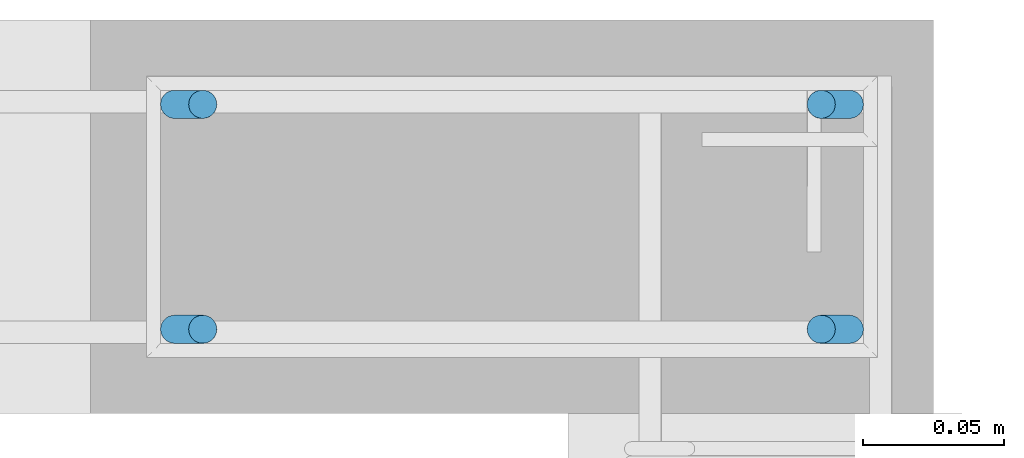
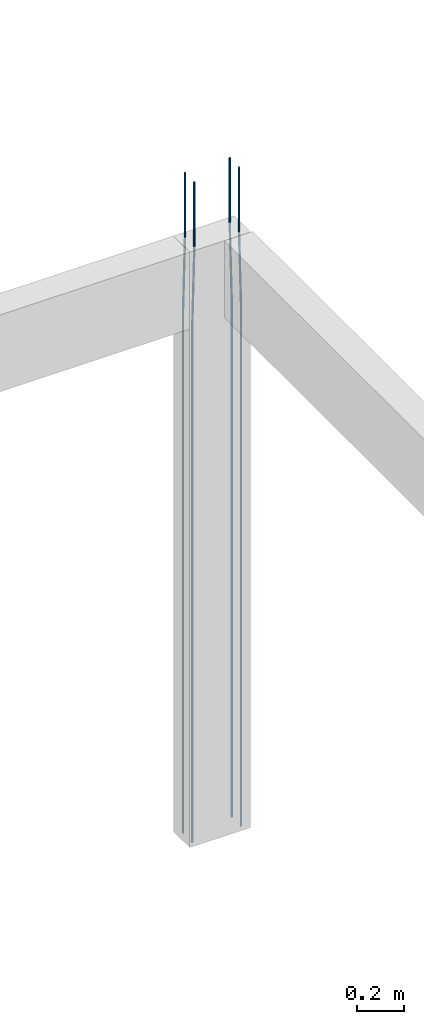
# One storey, part 131 of 236: 4 reinforcing bars.
"""IFC4 building model written with IfcOpenShell, lengths in centimetres."""

from ifc_helpers import new_model, entity, si_unit, derived_unit, frame, origin_with_axes, place, context, project, spatial, element, save


model = new_model("IFC4")

# Units and contexts
model_context = context("Model", 3, precision=1e-05, world=origin_with_axes(), identifier="Body")
ifc_project = project(units=[si_unit("LENGTHUNIT", "METRE", prefix="CENTI"), si_unit("VOLUMEUNIT", "CUBIC_METRE"), si_unit("AREAUNIT", "SQUARE_METRE"), si_unit("POWERUNIT", "WATT"), si_unit("LUMINOUSFLUXUNIT", "LUMEN"), si_unit("ELECTRICCURRENTUNIT", "AMPERE"), si_unit("PRESSUREUNIT", "PASCAL", prefix="KILO"), si_unit("MASSUNIT", "GRAM", prefix="KILO"), si_unit("PLANEANGLEUNIT", "RADIAN"), derived_unit("VOLUMETRICFLOWRATEUNIT", [(si_unit("LENGTHUNIT", "METRE"), 3), (si_unit("TIMEUNIT", "SECOND"), -1)])], contexts=[model_context])

# Site, building, storey
site_placement = place(None, frame((-4000.0, 0.0, 0.0), z_axis=(0.0, 0.0, 1.0), x_axis=(1.0, 0.0, 0.0)))
site = spatial("IfcSite", under=ifc_project, at=site_placement, Name="PADRÃO")
building_placement = place(site_placement, frame((0.0, 0.0, -14.0)))
building = spatial("IfcBuilding", under=site, at=building_placement, Name="CRECHE PRÉ-ESCOLA TIPO 2")
placement_1 = place(building_placement, origin_with_axes())
placement_2 = place(placement_1, frame((0.0, 0.0, 30.0), z_axis=(0.0, 0.0, 1.0), x_axis=(1.0, 0.0, 0.0)))
storey_placement = place(placement_2, frame((0.0, 0.0, 310.0), z_axis=(0.0, 0.0, 1.0), x_axis=(1.0, 0.0, 0.0)))
storey = spatial("IfcBuildingStorey", under=building, at=storey_placement, Name="TERREO", CompositionType="ELEMENT", Elevation=326.0)

# Reinforcing bars
reinforcing_bar_1_placement = place(storey_placement, frame((1388.34, 3989.0, 33.3573001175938), z_axis=(0.0, 0.0, 1.0), x_axis=(1.0, 0.0, 0.0)))
element("IfcReinforcingBar", 1, at=reinforcing_bar_1_placement, inside=storey, Name="P25 - Longitudinal", BarLength=0.0, CrossSectionArea=7.853981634e-05, NominalDiameter=1.0, PredefinedType="MAIN", context=model_context, shape_type="AdvancedSweptSolid", body=[
    entity("IfcSweptDiskSolid", entity("IfcCompositeCurve", [entity("IfcCompositeCurveSegment", "CONTINUOUS", True, entity("IfcPolyline", [entity("IfcCartesianPoint", [0.5, 0.0, -343.357300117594]), entity("IfcCartesianPoint", [0.5, 0.0, -73.3573001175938])])), entity("IfcCompositeCurveSegment", "CONTINUOUS", True, entity("IfcPolyline", [entity("IfcCartesianPoint", [0.5, 0.0, -73.3573001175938]), entity("IfcCartesianPoint", [-0.5, 0.0, -33.3573001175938])])), entity("IfcCompositeCurveSegment", "CONTINUOUS", True, entity("IfcPolyline", [entity("IfcCartesianPoint", [-0.5, 0.0, -33.3573001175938]), entity("IfcCartesianPoint", [-0.5, 0.0, 0.0])]))], False), 0.5),
])
reinforcing_bar_2_placement = place(storey_placement, frame((1365.34, 3981.0, 33.3573001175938), z_axis=(0.0, 0.0, 1.0), x_axis=(1.0, 0.0, 0.0)))
element("IfcReinforcingBar", 2, at=reinforcing_bar_2_placement, inside=storey, Name="P25 - Longitudinal", BarLength=0.0, CrossSectionArea=7.853981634e-05, NominalDiameter=1.0, PredefinedType="MAIN", context=model_context, shape_type="AdvancedSweptSolid", body=[
    entity("IfcSweptDiskSolid", entity("IfcCompositeCurve", [entity("IfcCompositeCurveSegment", "CONTINUOUS", True, entity("IfcPolyline", [entity("IfcCartesianPoint", [-0.5, 0.0, -343.357300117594]), entity("IfcCartesianPoint", [-0.5, 0.0, -73.3573001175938])])), entity("IfcCompositeCurveSegment", "CONTINUOUS", True, entity("IfcPolyline", [entity("IfcCartesianPoint", [-0.5, 0.0, -73.3573001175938]), entity("IfcCartesianPoint", [0.5, 0.0, -33.3573001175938])])), entity("IfcCompositeCurveSegment", "CONTINUOUS", True, entity("IfcPolyline", [entity("IfcCartesianPoint", [0.5, 0.0, -33.3573001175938]), entity("IfcCartesianPoint", [0.5, 0.0, 0.0])]))], False), 0.5),
])
reinforcing_bar_3_placement = place(storey_placement, frame((1388.34, 3981.0, 33.3573001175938), z_axis=(0.0, 0.0, 1.0), x_axis=(1.0, 0.0, 0.0)))
element("IfcReinforcingBar", 3, at=reinforcing_bar_3_placement, inside=storey, Name="P25 - Longitudinal", BarLength=0.0, CrossSectionArea=7.853981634e-05, NominalDiameter=1.0, PredefinedType="MAIN", context=model_context, shape_type="AdvancedSweptSolid", body=[
    entity("IfcSweptDiskSolid", entity("IfcCompositeCurve", [entity("IfcCompositeCurveSegment", "CONTINUOUS", True, entity("IfcPolyline", [entity("IfcCartesianPoint", [0.5, 0.0, -343.357300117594]), entity("IfcCartesianPoint", [0.5, 0.0, -73.3573001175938])])), entity("IfcCompositeCurveSegment", "CONTINUOUS", True, entity("IfcPolyline", [entity("IfcCartesianPoint", [0.5, 0.0, -73.3573001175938]), entity("IfcCartesianPoint", [-0.5, 0.0, -33.3573001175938])])), entity("IfcCompositeCurveSegment", "CONTINUOUS", True, entity("IfcPolyline", [entity("IfcCartesianPoint", [-0.5, 0.0, -33.3573001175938]), entity("IfcCartesianPoint", [-0.5, 0.0, 0.0])]))], False), 0.5),
])
reinforcing_bar_4_placement = place(storey_placement, frame((1365.34, 3989.0, 33.3573001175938), z_axis=(0.0, 0.0, 1.0), x_axis=(1.0, 0.0, 0.0)))
element("IfcReinforcingBar", 4, at=reinforcing_bar_4_placement, inside=storey, Name="P25 - Longitudinal", BarLength=0.0, CrossSectionArea=7.853981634e-05, NominalDiameter=1.0, PredefinedType="MAIN", context=model_context, shape_type="AdvancedSweptSolid", body=[
    entity("IfcSweptDiskSolid", entity("IfcCompositeCurve", [entity("IfcCompositeCurveSegment", "CONTINUOUS", True, entity("IfcPolyline", [entity("IfcCartesianPoint", [-0.5, 0.0, -343.357300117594]), entity("IfcCartesianPoint", [-0.5, 0.0, -73.3573001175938])])), entity("IfcCompositeCurveSegment", "CONTINUOUS", True, entity("IfcPolyline", [entity("IfcCartesianPoint", [-0.5, 0.0, -73.3573001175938]), entity("IfcCartesianPoint", [0.5, 0.0, -33.3573001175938])])), entity("IfcCompositeCurveSegment", "CONTINUOUS", True, entity("IfcPolyline", [entity("IfcCartesianPoint", [0.5, 0.0, -33.3573001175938]), entity("IfcCartesianPoint", [0.5, 0.0, 0.0])]))], False), 0.5),
])

save(model, "model.ifc")
